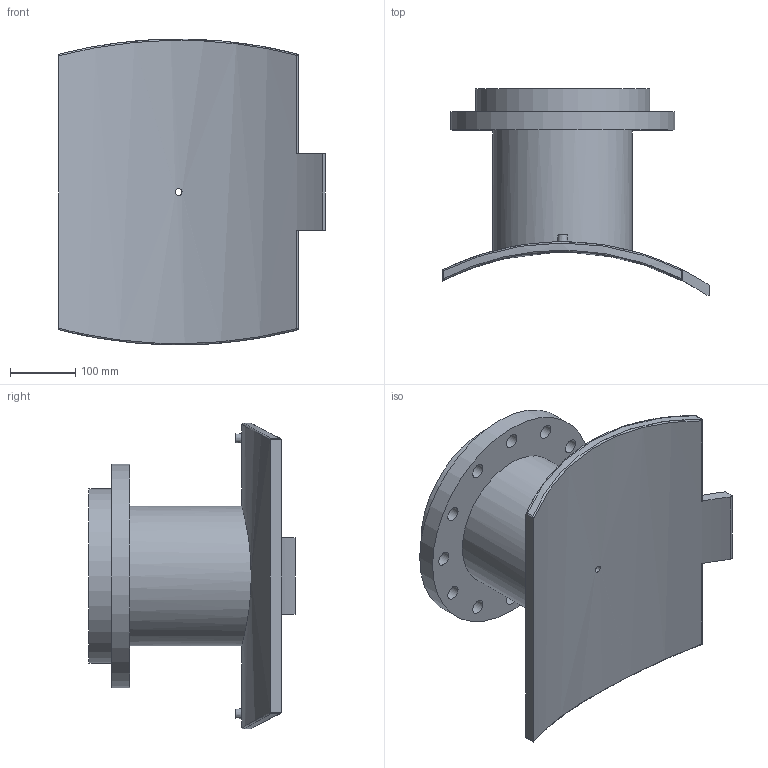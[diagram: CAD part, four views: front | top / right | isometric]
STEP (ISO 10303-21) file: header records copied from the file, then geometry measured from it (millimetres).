
FILE_DESCRIPTION(/* description */ ('PLASSON FLANGED BRANCH SADDLE 800X200'),/* implementation_level */ '2;1');
FILE_NAME(/* name */ 'C:\Dropbox\KIMPROJECTS-Inventor 2019\99-16-3568-Processing\ElectroFusion Fittings\495904_495903\stp\495903800200T.stp',/* time_stamp */ '2024-04-03T21:02:48+02:00',/* author */ ('KIM'),/* organization */ (''),/* preprocessor_version */ 'ST-DEVELOPER v17.2',/* originating_system */ 'Autodesk Inventor 2019',/* authorisation */ '');
FILE_SCHEMA (('AUTOMOTIVE_DESIGN { 1 0 10303 214 3 1 1 }'));
Length unit declared in the file: millimetre
Products named in the file (1): 495903800200T
Bounding box: 410 x 316.61 x 470 mm (x, y, z)
Volume: 8548076 mm3; surface area: 830769.1 mm2
Topology: 1 solids, 1 shells, 62 faces, 163 edges, 126 vertices
Faces by surface type: cylinder 35, plane 17, sphere 4, bspline 4, cone 2
Full cylindrical faces by diameter (mm): 4 x2, 10 x2, 10.4 x1, 16 x1, 22 x12, 163 x1, 214.4 x1, 268 x1, 344 x1
Entity records: 2601 total; most frequent: CARTESIAN_POINT 973, DIRECTION 325, ORIENTED_EDGE 298, EDGE_CURVE 149, AXIS2_PLACEMENT_3D 137, VERTEX_POINT 100, EDGE_LOOP 99, CIRCLE 78
